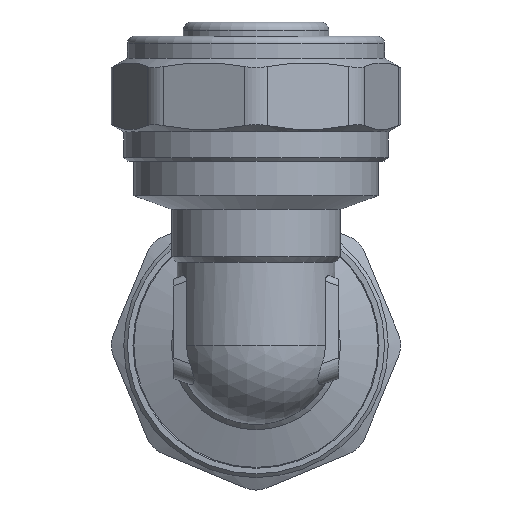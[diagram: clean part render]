
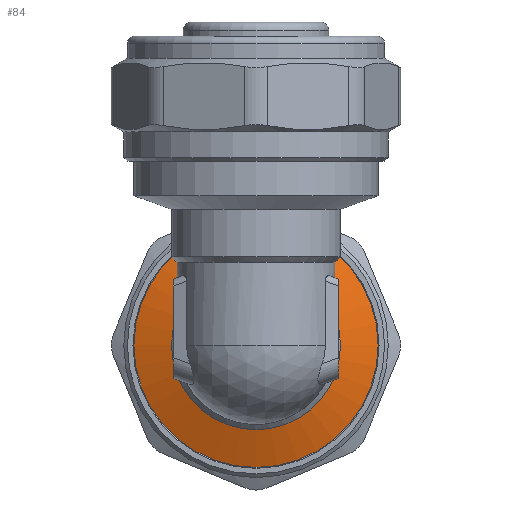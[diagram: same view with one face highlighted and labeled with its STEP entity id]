
A CAD part, front view. The second image highlights one B-rep face of the part: STEP entity #84.
In plain terms, the highlighted conical face has half-angle 70 degrees and reference radius 14.062 mm.
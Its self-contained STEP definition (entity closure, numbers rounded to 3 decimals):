
#84=ADVANCED_FACE('',(#1065,#1067),#1069,.T.);
#1065=FACE_OUTER_BOUND('',#1066,.T.);
#1066=EDGE_LOOP('',(#6294));
#1067=FACE_OUTER_BOUND('',#1068,.T.);
#1068=EDGE_LOOP('',(#6295));
#1069=CONICAL_SURFACE('',#1070,14.062,1.222);
#1070=AXIS2_PLACEMENT_3D('',#1071,#1072,#1073);
#1071=CARTESIAN_POINT('',(0.,19.442,0.));
#1072=DIRECTION('',(0.,1.,0.));
#1073=DIRECTION('',(1.,0.,0.));
#6294=ORIENTED_EDGE('',*,*,#11164,.F.);
#6295=ORIENTED_EDGE('',*,*,#11009,.F.);
#11009=EDGE_CURVE('',#12995,#12995,#12996,.F.);
#11164=EDGE_CURVE('',#13295,#13295,#13296,.F.);
#12995=VERTEX_POINT('',#16387);
#12996=CIRCLE('',#16388,16.625);
#13295=VERTEX_POINT('',#17753);
#13296=CIRCLE('',#17754,11.5);
#16387=CARTESIAN_POINT('',(-16.625,20.374,0.));
#16388=AXIS2_PLACEMENT_3D('',#16389,#16390,#16391);
#16389=CARTESIAN_POINT('',(0.,20.374,0.));
#16390=DIRECTION('',(0.,-1.,0.));
#16391=DIRECTION('',(-1.,0.,0.));
#17753=CARTESIAN_POINT('',(-11.5,18.509,0.));
#17754=AXIS2_PLACEMENT_3D('',#17755,#17756,#17757);
#17755=CARTESIAN_POINT('',(0.,18.509,0.));
#17756=DIRECTION('',(0.,1.,0.));
#17757=DIRECTION('',(-1.,0.,0.));
